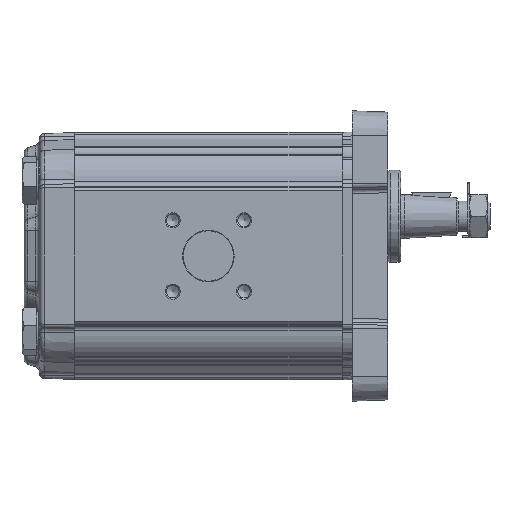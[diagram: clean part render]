
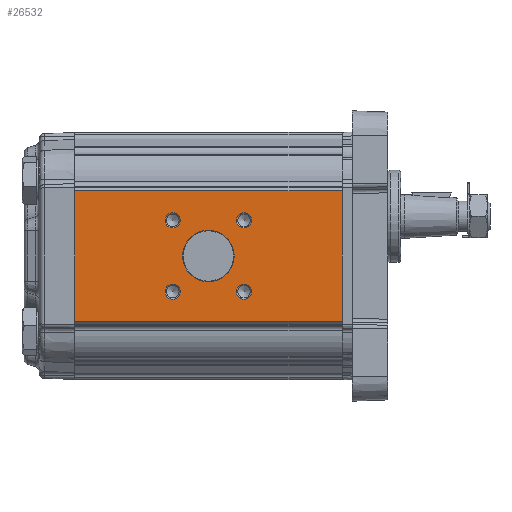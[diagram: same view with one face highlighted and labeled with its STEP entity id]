
A CAD part, left-side view. The second image highlights one B-rep face of the part: STEP entity #26532.
In plain terms, the highlighted planar face has unit normal (-1, 0, 0) as drawn and (1, 0, 0) by its records, which use the part's own axes.
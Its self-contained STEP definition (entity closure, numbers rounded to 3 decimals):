
#1001=PLANE('',#27806);
#1524=CIRCLE('',#27807,10.2);
#1525=CIRCLE('',#27808,3.);
#1526=CIRCLE('',#27809,3.);
#1527=CIRCLE('',#27810,3.);
#1528=CIRCLE('',#27811,3.);
#3572=ORIENTED_EDGE('',*,*,#9257,.T.);
#3573=ORIENTED_EDGE('',*,*,#9258,.T.);
#3574=ORIENTED_EDGE('',*,*,#9259,.T.);
#3575=ORIENTED_EDGE('',*,*,#9260,.T.);
#3576=ORIENTED_EDGE('',*,*,#9261,.T.);
#3577=ORIENTED_EDGE('',*,*,#9262,.F.);
#3578=ORIENTED_EDGE('',*,*,#9263,.F.);
#3579=ORIENTED_EDGE('',*,*,#9264,.T.);
#3580=ORIENTED_EDGE('',*,*,#9265,.T.);
#9257=EDGE_CURVE('',#12219,#12219,#1524,.F.);
#9258=EDGE_CURVE('',#12220,#12220,#1525,.F.);
#9259=EDGE_CURVE('',#12221,#12221,#1526,.F.);
#9260=EDGE_CURVE('',#12222,#12222,#1527,.F.);
#9261=EDGE_CURVE('',#12223,#12223,#1528,.F.);
#9262=EDGE_CURVE('',#12224,#12225,#14077,.T.);
#9263=EDGE_CURVE('',#12226,#12224,#14078,.T.);
#9264=EDGE_CURVE('',#12226,#12227,#14079,.T.);
#9265=EDGE_CURVE('',#12227,#12225,#14080,.T.);
#12219=VERTEX_POINT('',#36948);
#12220=VERTEX_POINT('',#36950);
#12221=VERTEX_POINT('',#36952);
#12222=VERTEX_POINT('',#36954);
#12223=VERTEX_POINT('',#36956);
#12224=VERTEX_POINT('',#36958);
#12225=VERTEX_POINT('',#36959);
#12226=VERTEX_POINT('',#36961);
#12227=VERTEX_POINT('',#36963);
#14077=LINE('',#36957,#15386);
#14078=LINE('',#36960,#15387);
#14079=LINE('',#36962,#15388);
#14080=LINE('',#36964,#15389);
#15386=VECTOR('',#30728,1000.);
#15387=VECTOR('',#30729,1000.);
#15388=VECTOR('',#30730,1000.);
#15389=VECTOR('',#30731,1000.);
#16843=EDGE_LOOP('',(#3572));
#16844=EDGE_LOOP('',(#3573));
#16845=EDGE_LOOP('',(#3574));
#16846=EDGE_LOOP('',(#3575));
#16847=EDGE_LOOP('',(#3576));
#16848=EDGE_LOOP('',(#3577,#3578,#3579,#3580));
#18124=FACE_BOUND('',#16843,.T.);
#18125=FACE_BOUND('',#16844,.T.);
#18126=FACE_BOUND('',#16845,.T.);
#18127=FACE_BOUND('',#16846,.T.);
#18128=FACE_BOUND('',#16847,.T.);
#18129=FACE_BOUND('',#16848,.T.);
#26532=ADVANCED_FACE('',(#18124,#18125,#18126,#18127,#18128,#18129),#1001,
 .T.);
#27806=AXIS2_PLACEMENT_3D('',#36946,#30716,#30717);
#27807=AXIS2_PLACEMENT_3D('',#36947,#30718,#30719);
#27808=AXIS2_PLACEMENT_3D('',#36949,#30720,#30721);
#27809=AXIS2_PLACEMENT_3D('',#36951,#30722,#30723);
#27810=AXIS2_PLACEMENT_3D('',#36953,#30724,#30725);
#27811=AXIS2_PLACEMENT_3D('',#36955,#30726,#30727);
#30716=DIRECTION('',(1.,0.,0.));
#30717=DIRECTION('',(0.,0.,-1.));
#30718=DIRECTION('',(1.,0.,0.));
#30719=DIRECTION('',(0.,0.,-1.));
#30720=DIRECTION('',(1.,0.,0.));
#30721=DIRECTION('',(0.,0.,-1.));
#30722=DIRECTION('',(1.,0.,0.));
#30723=DIRECTION('',(0.,0.,-1.));
#30724=DIRECTION('',(1.,0.,0.));
#30725=DIRECTION('',(0.,0.,-1.));
#30726=DIRECTION('',(1.,0.,0.));
#30727=DIRECTION('',(0.,0.,-1.));
#30728=DIRECTION('',(0.,0.,1.));
#30729=DIRECTION('',(0.,-1.,0.));
#30730=DIRECTION('',(0.,0.,1.));
#30731=DIRECTION('',(0.,-1.,0.));
#36946=CARTESIAN_POINT('',(45.,106.,-25.912));
#36947=CARTESIAN_POINT('',(45.,53.,0.));
#36948=CARTESIAN_POINT('',(45.,53.,-10.2));
#36949=CARTESIAN_POINT('',(45.,67.142,-14.142));
#36950=CARTESIAN_POINT('',(45.,67.142,-17.142));
#36951=CARTESIAN_POINT('',(45.,38.858,-14.142));
#36952=CARTESIAN_POINT('',(45.,38.858,-17.142));
#36953=CARTESIAN_POINT('',(45.,67.142,14.142));
#36954=CARTESIAN_POINT('',(45.,67.142,11.142));
#36955=CARTESIAN_POINT('',(45.,38.858,14.142));
#36956=CARTESIAN_POINT('',(45.,38.858,11.142));
#36957=CARTESIAN_POINT('',(45.,0.,-25.912));
#36958=CARTESIAN_POINT('',(45.,0.,-25.912));
#36959=CARTESIAN_POINT('',(45.,0.,25.912));
#36960=CARTESIAN_POINT('',(45.,106.,-25.912));
#36961=CARTESIAN_POINT('',(45.,106.,-25.912));
#36962=CARTESIAN_POINT('',(45.,106.,-25.912));
#36963=CARTESIAN_POINT('',(45.,106.,25.912));
#36964=CARTESIAN_POINT('',(45.,106.,25.912));
